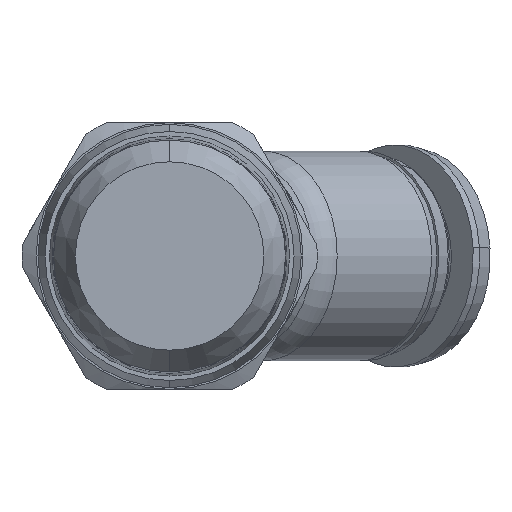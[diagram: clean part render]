
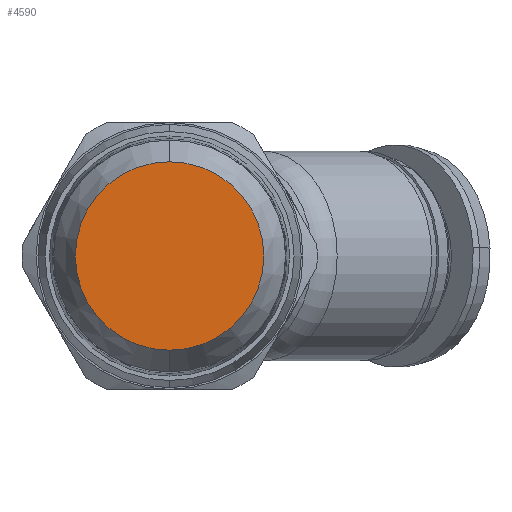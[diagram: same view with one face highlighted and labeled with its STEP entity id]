
A CAD part, front view. The second image highlights one B-rep face of the part: STEP entity #4590.
In plain terms, the highlighted planar face has unit normal (0, -1, 0).
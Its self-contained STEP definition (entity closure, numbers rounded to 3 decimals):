
#46 = DIRECTION ( 'NONE',  ( 0., 0., -1. ) ) ;
#156 = VERTEX_POINT ( 'NONE', #5118 ) ;
#708 = AXIS2_PLACEMENT_3D ( 'NONE', #1693, #4939, #2196 ) ;
#888 = AXIS2_PLACEMENT_3D ( 'NONE', #2541, #3036, #46 ) ;
#1250 = CIRCLE ( 'NONE', #2245, 5.3 ) ;
#1387 = CARTESIAN_POINT ( 'NONE',  ( 0., 0., 0. ) ) ;
#1693 = CARTESIAN_POINT ( 'NONE',  ( 0., 0., 0. ) ) ;
#1891 = DIRECTION ( 'NONE',  ( 0., 0., -1. ) ) ;
#1939 = CIRCLE ( 'NONE', #708, 5.3 ) ;
#2196 = DIRECTION ( 'NONE',  ( 0., 0., -1. ) ) ;
#2245 = AXIS2_PLACEMENT_3D ( 'NONE', #1387, #4673, #1891 ) ;
#2541 = CARTESIAN_POINT ( 'NONE',  ( 0., 0., 0. ) ) ;
#2639 = ORIENTED_EDGE ( 'NONE', *, *, #5708, .T. ) ;
#2952 = EDGE_LOOP ( 'NONE', ( #2639, #5277 ) ) ;
#3036 = DIRECTION ( 'NONE',  ( 0., -1., 0. ) ) ;
#3501 = CARTESIAN_POINT ( 'NONE',  ( 0., 0., -5.3 ) ) ;
#3788 = FACE_OUTER_BOUND ( 'NONE', #2952, .T. ) ;
#4215 = VERTEX_POINT ( 'NONE', #3501 ) ;
#4343 = PLANE ( 'NONE',  #888 ) ;
#4590 = ADVANCED_FACE ( 'Defeature completata1_125', ( #3788 ), #4343, .T. ) ;
#4673 = DIRECTION ( 'NONE',  ( 0., -1., 0. ) ) ;
#4939 = DIRECTION ( 'NONE',  ( 0., -1., 0. ) ) ;
#5118 = CARTESIAN_POINT ( 'NONE',  ( 0., 0., 5.3 ) ) ;
#5277 = ORIENTED_EDGE ( 'NONE', *, *, #6082, .T. ) ;
#5708 = EDGE_CURVE ( 'Defeature completata1_125+Defeature completata1_126+Defeature completata1_126+Defeature completata1_126', #156, #4215, #1939, .T. ) ;
#6082 = EDGE_CURVE ( 'Defeature completata1_125+Defeature completata1_126+Defeature completata1_126+Defeature completata1_126', #4215, #156, #1250, .T. ) ;
